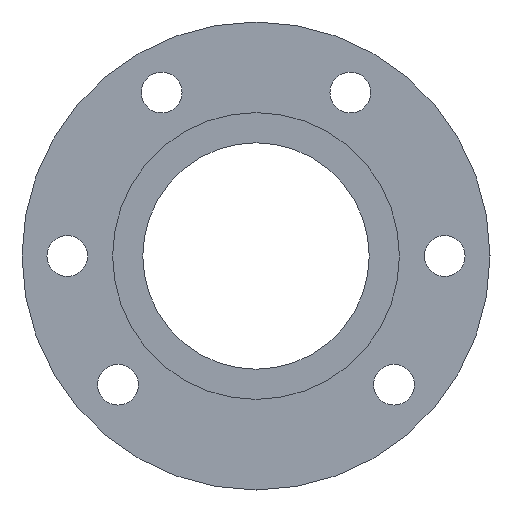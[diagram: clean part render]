
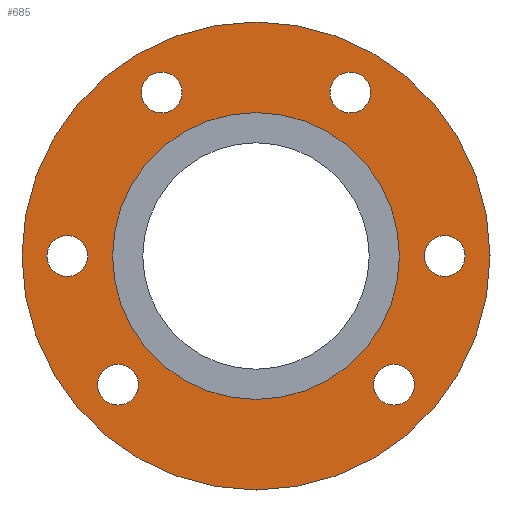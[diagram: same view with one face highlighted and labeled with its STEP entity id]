
A CAD part, left-side view. The second image highlights one B-rep face of the part: STEP entity #685.
In plain terms, the highlighted planar face has unit normal (-1, 0, 0).
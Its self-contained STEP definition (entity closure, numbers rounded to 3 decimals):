
#355=CARTESIAN_POINT('',(-15.5,0.0,-77.5));
#356=VERTEX_POINT('',#355);
#357=CARTESIAN_POINT('',(-15.5,0.0,0.0));
#358=DIRECTION('',(1.0,0.0,0.0));
#359=DIRECTION('',(0.0,0.0,-1.0));
#360=AXIS2_PLACEMENT_3D('',#357,#358,#359);
#361=CIRCLE('',#360,77.5);
#362=EDGE_CURVE('',#356,#356,#361,.T.);
#396=CARTESIAN_POINT('',(-15.5,-62.5,6.75));
#397=VERTEX_POINT('',#396);
#398=CARTESIAN_POINT('',(-15.5,-62.5,0.0));
#399=DIRECTION('',(1.0,0.0,0.0));
#400=DIRECTION('',(0.0,0.0,-1.0));
#401=AXIS2_PLACEMENT_3D('',#398,#399,#400);
#402=CIRCLE('',#401,6.75);
#403=EDGE_CURVE('',#397,#397,#402,.T.);
#437=CARTESIAN_POINT('',(-15.5,62.5,6.75));
#438=VERTEX_POINT('',#437);
#439=CARTESIAN_POINT('',(-15.5,62.5,0.));
#440=DIRECTION('',(1.0,0.0,0.0));
#441=DIRECTION('',(0.0,0.0,-1.0));
#442=AXIS2_PLACEMENT_3D('',#439,#440,#441);
#443=CIRCLE('',#442,6.75);
#444=EDGE_CURVE('',#438,#438,#443,.T.);
#478=CARTESIAN_POINT('',(-15.5,-45.71,-35.875));
#479=VERTEX_POINT('',#478);
#480=CARTESIAN_POINT('',(-15.5,-45.71,-42.625));
#481=DIRECTION('',(1.0,0.0,0.0));
#482=DIRECTION('',(0.0,0.0,-1.0));
#483=AXIS2_PLACEMENT_3D('',#480,#481,#482);
#484=CIRCLE('',#483,6.75);
#485=EDGE_CURVE('',#479,#479,#484,.T.);
#519=CARTESIAN_POINT('',(-15.5,45.71,-35.875));
#520=VERTEX_POINT('',#519);
#521=CARTESIAN_POINT('',(-15.5,45.71,-42.625));
#522=DIRECTION('',(1.0,0.0,0.0));
#523=DIRECTION('',(0.0,0.0,-1.0));
#524=AXIS2_PLACEMENT_3D('',#521,#522,#523);
#525=CIRCLE('',#524,6.75);
#526=EDGE_CURVE('',#520,#520,#525,.T.);
#560=CARTESIAN_POINT('',(-15.5,31.25,60.877));
#561=VERTEX_POINT('',#560);
#562=CARTESIAN_POINT('',(-15.5,31.25,54.127));
#563=DIRECTION('',(1.0,0.0,0.0));
#564=DIRECTION('',(0.0,0.0,-1.0));
#565=AXIS2_PLACEMENT_3D('',#562,#563,#564);
#566=CIRCLE('',#565,6.75);
#567=EDGE_CURVE('',#561,#561,#566,.T.);
#601=CARTESIAN_POINT('',(-15.5,-31.25,60.877));
#602=VERTEX_POINT('',#601);
#603=CARTESIAN_POINT('',(-15.5,-31.25,54.127));
#604=DIRECTION('',(1.0,0.0,0.0));
#605=DIRECTION('',(0.0,0.0,-1.0));
#606=AXIS2_PLACEMENT_3D('',#603,#604,#605);
#607=CIRCLE('',#606,6.75);
#608=EDGE_CURVE('',#602,#602,#607,.T.);
#641=CARTESIAN_POINT('',(-15.5,0.0,-47.5));
#642=VERTEX_POINT('',#641);
#643=CARTESIAN_POINT('',(-15.5,0.0,0.0));
#644=DIRECTION('',(1.0,0.0,0.0));
#645=DIRECTION('',(0.0,0.0,-1.0));
#646=AXIS2_PLACEMENT_3D('',#643,#644,#645);
#647=CIRCLE('',#646,47.5);
#648=EDGE_CURVE('',#642,#642,#647,.T.);
#656=CARTESIAN_POINT('',(-15.5,0.0,-62.5));
#657=DIRECTION('',(-1.0,0.0,0.0));
#658=DIRECTION('',(0.0,0.0,1.0));
#659=AXIS2_PLACEMENT_3D('',#656,#657,#658);
#660=PLANE('',#659);
#661=ORIENTED_EDGE('',*,*,#362,.F.);
#662=EDGE_LOOP('',(#661));
#663=FACE_OUTER_BOUND('',#662,.T.);
#664=ORIENTED_EDGE('',*,*,#403,.T.);
#665=EDGE_LOOP('',(#664));
#666=FACE_BOUND('',#665,.T.);
#667=ORIENTED_EDGE('',*,*,#444,.T.);
#668=EDGE_LOOP('',(#667));
#669=FACE_BOUND('',#668,.T.);
#670=ORIENTED_EDGE('',*,*,#485,.T.);
#671=EDGE_LOOP('',(#670));
#672=FACE_BOUND('',#671,.T.);
#673=ORIENTED_EDGE('',*,*,#526,.T.);
#674=EDGE_LOOP('',(#673));
#675=FACE_BOUND('',#674,.T.);
#676=ORIENTED_EDGE('',*,*,#567,.T.);
#677=EDGE_LOOP('',(#676));
#678=FACE_BOUND('',#677,.T.);
#679=ORIENTED_EDGE('',*,*,#608,.T.);
#680=EDGE_LOOP('',(#679));
#681=FACE_BOUND('',#680,.T.);
#682=ORIENTED_EDGE('',*,*,#648,.T.);
#683=EDGE_LOOP('',(#682));
#684=FACE_BOUND('',#683,.T.);
#685=ADVANCED_FACE('',(#663,#666,#669,#672,#675,#678,#681,#684),#660,.T.);
